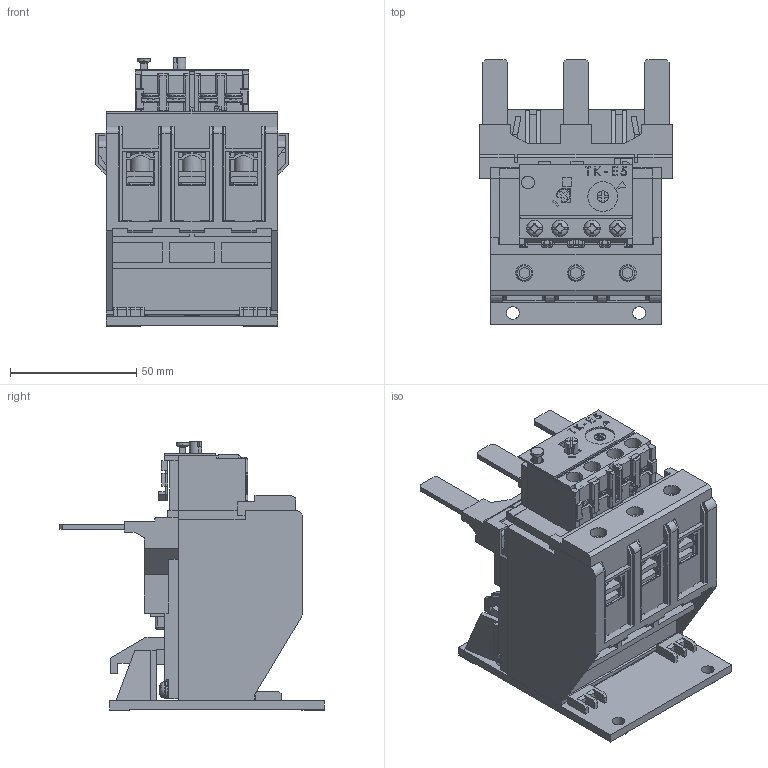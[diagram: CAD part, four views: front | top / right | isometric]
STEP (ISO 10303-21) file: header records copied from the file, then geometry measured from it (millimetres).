
FILE_DESCRIPTION (( 'STEP AP214' ), '1' );
FILE_NAME ('TK-E5.STEP', '2016-03-15T06:25:06', ( '川崎工場' ), ( '富士電機株式会社' ), 'SwSTEP 2.0', 'SolidWorks 2015', '' );
FILE_SCHEMA (( 'AUTOMOTIVE_DESIGN' ));
Length unit declared in the file: millimetre
Products named in the file (30): TK-E5 Line terminal plate center; TK-E5_auxiliary terminal plate; Box terminal^TK-E5; TK-E5_scale; TK-E3_Hexagon socket screw keys_M4; TK-E5_nameplate; TK-E3_Box terminal structure part; TK-E5_Upper Case; Screw M4^TK-E5; TK-E5_Lower Case; Washer_M4; Springwasher_M4; TK-E5; Screw_M4_L8; Screw M3P5^TK-E5; Washer_M3P5; Screw_M3.5_L7; auxiliary terminal^TK-E5; Springwasher_M3P5; Screw_M3.5_L10; Plate_M3P5_7P8; TK-E5_main terminal cover; TK-E5 Installation plate; TK-E5_auxiliary terminal cover; TK-E5 Line terminal cover; TK-E5_reset button; TK-E5 Line terminal plate left; TK-E5_test button; TK-E5 Line terminal plate right; TK-E5_main terminal plate
Assembly tree (43 placements, depth 3):
  TK-E5
    TK-E5_Lower Case
    TK-E5_Upper Case
    TK-E5_nameplate
    TK-E5_scale
    TK-E5_auxiliary terminal plate  x4
    TK-E5_main terminal plate  x3
    TK-E5_test button
    TK-E5_reset button
    TK-E5_auxiliary terminal cover
    TK-E5_main terminal cover
    auxiliary terminal^TK-E5  x4
      Plate_M3P5_7P8
      Screw_M3.5_L10
      Springwasher_M3P5
    Screw M3P5^TK-E5  x2
      Screw_M3.5_L7
      Springwasher_M3P5
      Washer_M3P5
    Screw M4^TK-E5  x3
      Screw_M4_L8
      Springwasher_M4
      Washer_M4
    Box terminal^TK-E5  x3
      TK-E3_Box terminal structure part
      TK-E3_Hexagon socket screw keys_M4
    TK-E5 Line terminal plate center
    TK-E5 Line terminal plate right
    TK-E5 Line terminal plate left
    TK-E5 Line terminal cover
    TK-E5 Installation plate
Bounding box: 76.3 x 104.7 x 106.2 mm (x, y, z)
Volume: 262011.4 mm3; surface area: 127471.5 mm2
Topology: 58 solids, 58 shells, 2029 faces, 5597 edges, 3673 vertices
Faces by surface type: plane 1691, cylinder 280, cone 22, bspline 13, sphere 12, torus 11
Full cylindrical faces by diameter (mm): 3 x6, 3.5 x20, 3.8 x2, 4 x3, 4.3 x3, 5 x4, 5.4 x6, 6.6 x4, 7 x2, 7.7 x3, 8 x3, 8.7 x3, 9 x2, 11.8 x2, 12 x1
Entity records: 49866 total; most frequent: CARTESIAN_POINT 9647, ORIENTED_EDGE 8316, DIRECTION 7570, EDGE_CURVE 4158, LINE 3628, VECTOR 3628, VERTEX_POINT 2755, AXIS2_PLACEMENT_3D 1971
